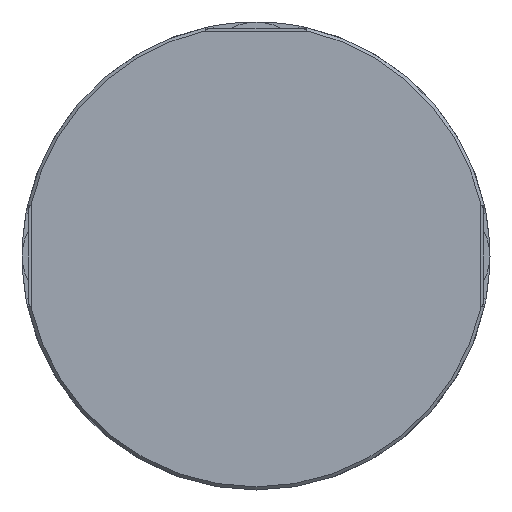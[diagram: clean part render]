
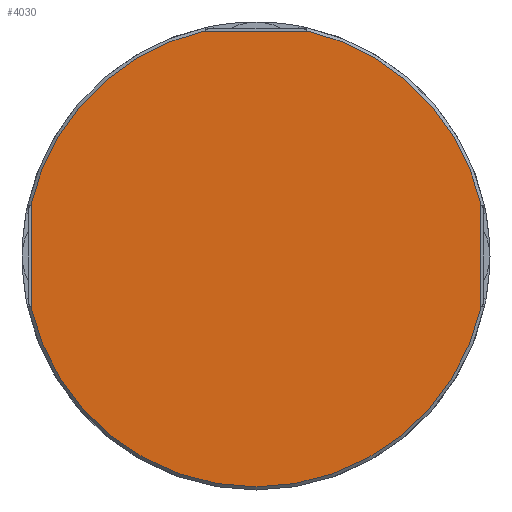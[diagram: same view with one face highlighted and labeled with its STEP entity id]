
A CAD part, front view. The second image highlights one B-rep face of the part: STEP entity #4030.
In plain terms, the highlighted planar face has unit normal (0, -1, 0).
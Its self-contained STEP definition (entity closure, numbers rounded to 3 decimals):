
#94 = LINE ( 'NONE', #1744, #4183 ) ;
#102 = VERTEX_POINT ( 'NONE', #942 ) ;
#176 = CARTESIAN_POINT ( 'NONE',  ( 72., 0., -16.2 ) ) ;
#190 = EDGE_CURVE ( 'NONE', #1125, #1434, #1738, .T. ) ;
#192 = EDGE_CURVE ( 'NONE', #1812, #3845, #2779, .T. ) ;
#210 = DIRECTION ( 'NONE',  ( 0., 0., 1. ) ) ;
#234 = VERTEX_POINT ( 'NONE', #3777 ) ;
#311 = CARTESIAN_POINT ( 'NONE',  ( 72.5, 0., 16.2 ) ) ;
#332 = EDGE_CURVE ( 'NONE', #1434, #102, #2758, .T. ) ;
#334 = CARTESIAN_POINT ( 'NONE',  ( 72., 0., -16.2 ) ) ;
#426 = CARTESIAN_POINT ( 'NONE',  ( -16.2, 0., 72.5 ) ) ;
#503 = ORIENTED_EDGE ( 'NONE', *, *, #3998, .F. ) ;
#529 = AXIS2_PLACEMENT_3D ( 'NONE', #1765, #3354, #1379 ) ;
#718 = VECTOR ( 'NONE', #2732, 1000. ) ;
#786 = DIRECTION ( 'NONE',  ( -1., 0., 0. ) ) ;
#852 = EDGE_CURVE ( 'NONE', #234, #102, #2242, .T. ) ;
#896 = ORIENTED_EDGE ( 'NONE', *, *, #192, .T. ) ;
#932 = VECTOR ( 'NONE', #1462, 1000. ) ;
#942 = CARTESIAN_POINT ( 'NONE',  ( 72.205, 0., -16.2 ) ) ;
#1083 = VERTEX_POINT ( 'NONE', #3587 ) ;
#1089 = EDGE_LOOP ( 'NONE', ( #896, #2006, #4505, #503, #2699, #2284, #3605, #3881, #2801, #2147, #2478, #1911 ) ) ;
#1125 = VERTEX_POINT ( 'NONE', #3151 ) ;
#1135 = CARTESIAN_POINT ( 'NONE',  ( -16.2, 0., 72.205 ) ) ;
#1231 = CARTESIAN_POINT ( 'NONE',  ( -72.5, 0., -16.2 ) ) ;
#1292 = CARTESIAN_POINT ( 'NONE',  ( 16.2, 0., 72. ) ) ;
#1379 = DIRECTION ( 'NONE',  ( 0., 0., 1. ) ) ;
#1407 = DIRECTION ( 'NONE',  ( 0., 0., 1. ) ) ;
#1434 = VERTEX_POINT ( 'NONE', #334 ) ;
#1462 = DIRECTION ( 'NONE',  ( -1., 0., 0. ) ) ;
#1473 = VECTOR ( 'NONE', #4412, 1000. ) ;
#1617 = CARTESIAN_POINT ( 'NONE',  ( -72., 0., -16.2 ) ) ;
#1644 = VERTEX_POINT ( 'NONE', #4047 ) ;
#1649 = VECTOR ( 'NONE', #3037, 1000. ) ;
#1674 = DIRECTION ( 'NONE',  ( 1., 0., 0. ) ) ;
#1686 = DIRECTION ( 'NONE',  ( 0., 0., -1. ) ) ;
#1717 = VECTOR ( 'NONE', #3292, 1000. ) ;
#1738 = LINE ( 'NONE', #176, #5029 ) ;
#1744 = CARTESIAN_POINT ( 'NONE',  ( 16.2, 0., 72.5 ) ) ;
#1765 = CARTESIAN_POINT ( 'NONE',  ( 0., 0., 0. ) ) ;
#1812 = VERTEX_POINT ( 'NONE', #1135 ) ;
#1819 = EDGE_CURVE ( 'NONE', #1644, #3845, #3531, .T. ) ;
#1911 = ORIENTED_EDGE ( 'NONE', *, *, #3585, .F. ) ;
#2006 = ORIENTED_EDGE ( 'NONE', *, *, #1819, .F. ) ;
#2147 = ORIENTED_EDGE ( 'NONE', *, *, #4731, .F. ) ;
#2242 = CIRCLE ( 'NONE', #4052, 74. ) ;
#2284 = ORIENTED_EDGE ( 'NONE', *, *, #332, .F. ) ;
#2407 = VERTEX_POINT ( 'NONE', #3297 ) ;
#2461 = DIRECTION ( 'NONE',  ( 0., 0., -1. ) ) ;
#2478 = ORIENTED_EDGE ( 'NONE', *, *, #3685, .F. ) ;
#2482 = PLANE ( 'NONE',  #4787 ) ;
#2582 = EDGE_CURVE ( 'NONE', #3919, #1644, #2627, .T. ) ;
#2594 = DIRECTION ( 'NONE',  ( 0., 1., 0. ) ) ;
#2624 = CARTESIAN_POINT ( 'NONE',  ( -72.205, 0., 16.2 ) ) ;
#2627 = LINE ( 'NONE', #3506, #1649 ) ;
#2699 = ORIENTED_EDGE ( 'NONE', *, *, #852, .T. ) ;
#2731 = LINE ( 'NONE', #311, #932 ) ;
#2732 = DIRECTION ( 'NONE',  ( 1., 0., 0. ) ) ;
#2758 = LINE ( 'NONE', #4779, #718 ) ;
#2779 = CIRCLE ( 'NONE', #529, 74. ) ;
#2786 = VERTEX_POINT ( 'NONE', #4172 ) ;
#2801 = ORIENTED_EDGE ( 'NONE', *, *, #5041, .T. ) ;
#2818 = DIRECTION ( 'NONE',  ( 1., 0., 0. ) ) ;
#2827 = CIRCLE ( 'NONE', #4324, 74. ) ;
#2849 = LINE ( 'NONE', #426, #1473 ) ;
#2882 = CARTESIAN_POINT ( 'NONE',  ( 0., 0., 0. ) ) ;
#2941 = CARTESIAN_POINT ( 'NONE',  ( -16.2, 0., 72. ) ) ;
#3037 = DIRECTION ( 'NONE',  ( 0., 0., 1. ) ) ;
#3151 = CARTESIAN_POINT ( 'NONE',  ( 72., 0., 16.2 ) ) ;
#3217 = DIRECTION ( 'NONE',  ( 0., -1., 0. ) ) ;
#3292 = DIRECTION ( 'NONE',  ( 1., 0., 0. ) ) ;
#3293 = CARTESIAN_POINT ( 'NONE',  ( 0., 0., 0. ) ) ;
#3297 = CARTESIAN_POINT ( 'NONE',  ( 16.2, 0., 72.205 ) ) ;
#3354 = DIRECTION ( 'NONE',  ( 0., -1., 0. ) ) ;
#3506 = CARTESIAN_POINT ( 'NONE',  ( -72., 0., -18.002 ) ) ;
#3531 = LINE ( 'NONE', #3576, #4661 ) ;
#3576 = CARTESIAN_POINT ( 'NONE',  ( -72.5, 0., 16.2 ) ) ;
#3585 = EDGE_CURVE ( 'NONE', #1812, #4763, #2849, .T. ) ;
#3587 = CARTESIAN_POINT ( 'NONE',  ( 16.2, 0., 72. ) ) ;
#3605 = ORIENTED_EDGE ( 'NONE', *, *, #190, .F. ) ;
#3685 = EDGE_CURVE ( 'NONE', #4763, #1083, #4852, .T. ) ;
#3758 = CARTESIAN_POINT ( 'NONE',  ( -72., 0., -18.002 ) ) ;
#3777 = CARTESIAN_POINT ( 'NONE',  ( -72.205, 0., -16.2 ) ) ;
#3845 = VERTEX_POINT ( 'NONE', #2624 ) ;
#3881 = ORIENTED_EDGE ( 'NONE', *, *, #4797, .F. ) ;
#3919 = VERTEX_POINT ( 'NONE', #1617 ) ;
#3998 = EDGE_CURVE ( 'NONE', #234, #3919, #4435, .T. ) ;
#4030 = ADVANCED_FACE ( 'NONE', ( #4089 ), #2482, .F. ) ;
#4040 = VECTOR ( 'NONE', #2818, 1000. ) ;
#4047 = CARTESIAN_POINT ( 'NONE',  ( -72., 0., 16.2 ) ) ;
#4052 = AXIS2_PLACEMENT_3D ( 'NONE', #3293, #3217, #2461 ) ;
#4089 = FACE_OUTER_BOUND ( 'NONE', #1089, .T. ) ;
#4154 = DIRECTION ( 'NONE',  ( 0., -1., 0. ) ) ;
#4172 = CARTESIAN_POINT ( 'NONE',  ( 72.205, 0., 16.2 ) ) ;
#4183 = VECTOR ( 'NONE', #210, 1000. ) ;
#4324 = AXIS2_PLACEMENT_3D ( 'NONE', #2882, #4154, #1407 ) ;
#4412 = DIRECTION ( 'NONE',  ( 0., 0., -1. ) ) ;
#4435 = LINE ( 'NONE', #1231, #4040 ) ;
#4505 = ORIENTED_EDGE ( 'NONE', *, *, #2582, .F. ) ;
#4661 = VECTOR ( 'NONE', #786, 1000. ) ;
#4731 = EDGE_CURVE ( 'NONE', #1083, #2407, #94, .T. ) ;
#4763 = VERTEX_POINT ( 'NONE', #2941 ) ;
#4779 = CARTESIAN_POINT ( 'NONE',  ( 72.5, 0., -16.2 ) ) ;
#4787 = AXIS2_PLACEMENT_3D ( 'NONE', #3758, #2594, #1674 ) ;
#4797 = EDGE_CURVE ( 'NONE', #2786, #1125, #2731, .T. ) ;
#4852 = LINE ( 'NONE', #1292, #1717 ) ;
#5029 = VECTOR ( 'NONE', #1686, 1000. ) ;
#5041 = EDGE_CURVE ( 'NONE', #2786, #2407, #2827, .T. ) ;
